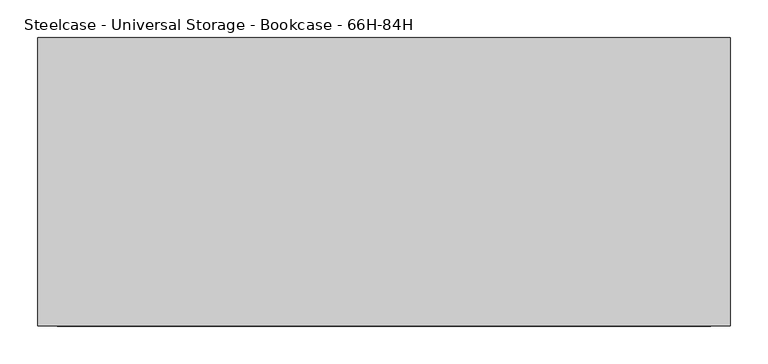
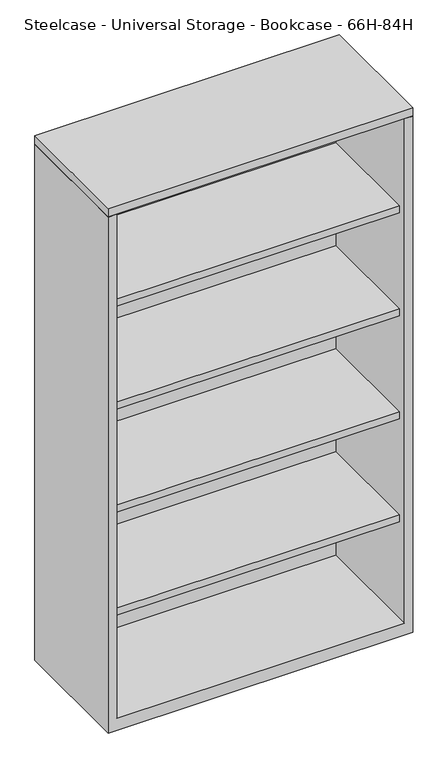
"""IFC4 building model written with IfcOpenShell, lengths in millimetres: furniture geometry, Steelcase - Universal Storage - Bookcase - 66H-84H : 65 1/2H x 36W."""

from ifc_helpers import new_model, si_unit, frame, origin, place, context, project, spatial, polyline, outline, extrude, faceted_brep, source, transform, mapped, element, save


def steelcase_universal_storage_bookcase_66h_84h_ff88a1a9(model_context):
    return source(origin(), model_context, "Body", "SolidModel", [
        extrude(outline(polyline([(914.4, -98.552), (914.4, -479.552), (0.0, -479.552), (0.0, -98.552), (914.4, -98.552)])), frame((0.0, 0.0, 1639.8239516), z_axis=(0.0, 0.0, 1.0), x_axis=(1.0, 0.0, 0.0)), (0.0, 0.0, 1.0), 25.4000484),
        extrude(outline(polyline([(889.0000242, -123.9520008), (889.0000242, -454.0250121), (25.4000008, -454.0250121), (25.4000008, -123.9520008), (889.0000242, -123.9520008)])), frame((0.0, 0.0, 344.424), z_axis=(0.0, 0.0, 1.0), x_axis=(1.0, 0.0, 0.0)), (0.0, 0.0, 1.0), 22.2249516),
        extrude(outline(polyline([(889.0000242, -123.9520008), (889.0000242, -454.0250121), (25.4000008, -454.0250121), (25.4000008, -123.9520008), (889.0000242, -123.9520008)])), frame((0.0, 0.0, 671.4489516), z_axis=(0.0, 0.0, 1.0), x_axis=(1.0, 0.0, 0.0)), (0.0, 0.0, 1.0), 22.2249516),
        extrude(outline(polyline([(889.0000242, -123.9520008), (889.0000242, -454.0250121), (25.4000008, -454.0250121), (25.4000008, -123.9520008), (889.0000242, -123.9520008)])), frame((0.0, 0.0, 998.4739031), z_axis=(0.0, 0.0, 1.0), x_axis=(1.0, 0.0, 0.0)), (0.0, 0.0, 1.0), 22.2249516),
        extrude(outline(polyline([(889.0000242, -123.9520008), (889.0000242, -454.0250121), (25.4000008, -454.0250121), (25.4000008, -123.9520008), (889.0000242, -123.9520008)])), frame((0.0, 0.0, 1325.4988547), z_axis=(0.0, 0.0, 1.0), x_axis=(1.0, 0.0, 0.0)), (0.0, 0.0, 1.0), 22.2249516),
        faceted_brep([(25.4000008, -479.552, 38.1), (889.0000242, -479.552, 38.1), (889.0000242, -123.9520008, 38.1), (25.4000008, -123.9520008, 38.1), (914.4, -98.552, 0.0), (914.4, -479.552, 0.0), (0.0, -479.552, 0.0), (0.0, -98.552, 0.0), (0.0, -98.552, 1638.3), (914.4, -98.552, 1638.3), (0.0, -479.552, 1638.3), (914.4, -479.552, 1638.3), (889.0000242, -479.552, 1638.3), (25.4000008, -479.552, 1638.3), (889.0000242, -123.9520008, 1638.3), (25.4000008, -123.9520008, 1638.3)], [[[0, 1, 2, 3]], [[4, 5, 6, 7]], [[4, 7, 8, 9]], [[8, 7, 6, 10]], [[10, 6, 5, 11, 12, 1, 0, 13]], [[11, 5, 4, 9]], [[14, 12, 11, 9, 8, 10, 13, 15]], [[12, 14, 2, 1]], [[15, 13, 0, 3]], [[14, 15, 3, 2]]]),
    ])


if __name__ == "__main__":
    model = new_model("IFC4")
    model_context = context("Model", 3, world=origin())
    ifc_project = project(units=[si_unit("LENGTHUNIT", "METRE", prefix="MILLI")], contexts=[model_context])
    site = spatial("IfcSite", under=ifc_project)
    building = spatial("IfcBuilding", under=site)
    placement = place(None, origin())
    steelcase_universal_storage_bookcase_66h_84h_shape = steelcase_universal_storage_bookcase_66h_84h_ff88a1a9(model_context)
    element("IfcFurniture", 1, ObjectType="Steelcase - Universal Storage - Bookcase - 66H-84H : 65 1/2H x 36W", at=placement, inside=building, context=model_context, shape_type="MappedRepresentation", body=[
        mapped(steelcase_universal_storage_bookcase_66h_84h_shape, transform((0.0, 0.0, 0.0), x_axis=(1.0, 0.0, 0.0), y_axis=(0.0, 1.0, 0.0), z_axis=(0.0, 0.0, 1.0))),
    ])
    save(model, "model.ifc")
